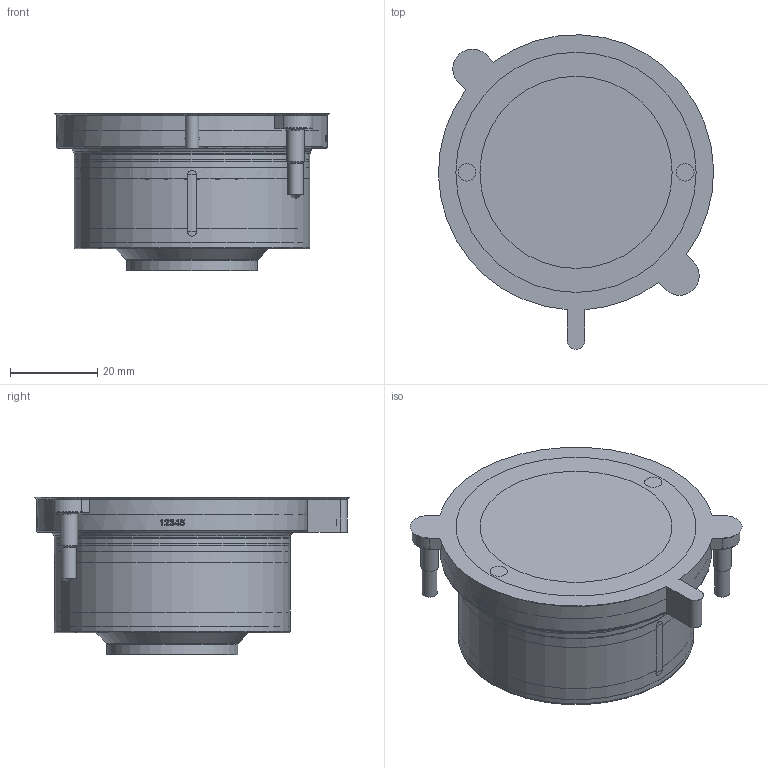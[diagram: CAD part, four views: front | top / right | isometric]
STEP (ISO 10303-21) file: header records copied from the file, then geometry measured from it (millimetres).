
FILE_DESCRIPTION(/* description */ (''),/* implementation_level */ '2;1');
FILE_NAME(/* name */ '83-003-027_CoolingInsertAssemblyTT-IT-OTX27-36.stp',/* time_stamp */ '2021-09-22T11:05:44+12:00',/* author */ (''),/* organization */ (''),/* preprocessor_version */ 'ST-DEVELOPER v16.7',/* originating_system */ 'SIEMENS PLM Software NX 12.0',/* authorisation */ '');
FILE_SCHEMA (('AP203_CONFIGURATION_CONTROLLED_3D_DESIGN_OF_MECHANICAL_PARTS_AND_ASSEMBLIES_MIM_LF { 1 0 10303 403 2 1 2}'));
Length unit declared in the file: millimetre
Products named in the file (1): Matt09681A55sy9f
Bounding box: 62.98 x 71.99 x 36 mm (x, y, z)
Volume: 117550.4 mm3; surface area: 32620.3 mm2
Topology: 9 solids, 9 shells, 424 faces, 1040 edges, 676 vertices
Faces by surface type: plane 187, cylinder 137, cone 32, torus 28, extrusion 28, revolution 8, bspline 4
Full cylindrical faces by diameter (mm): 0.421 x1, 2 x1, 3 x1, 3.02 x3, 3.5 x2, 4 x2, 7.6 x2, 23.01 x1, 29.795 x1, 29.995 x1, 30.01 x1, 38 x1, 40.2 x2, 43 x1, 45.8 x2, 50.7 x2, 53.8 x1, 53.94 x2, 54 x2, 56 x1, 61.8 x1
Entity records: 16180 total; most frequent: CARTESIAN_POINT 6602, ORIENTED_EDGE 1824, DIRECTION 1788, EDGE_CURVE 912, AXIS2_PLACEMENT_3D 667, VERTEX_POINT 646, EDGE_LOOP 561, VECTOR 446
